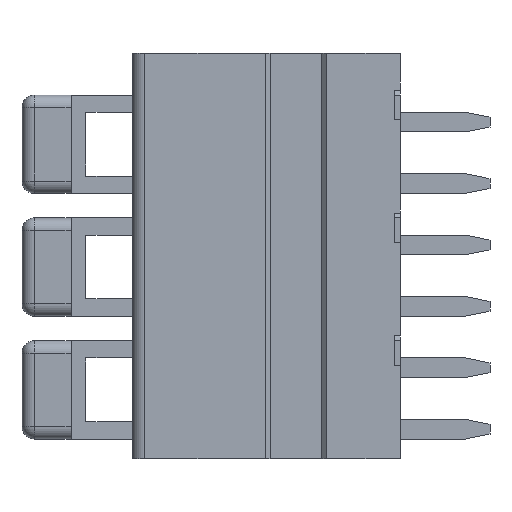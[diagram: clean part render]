
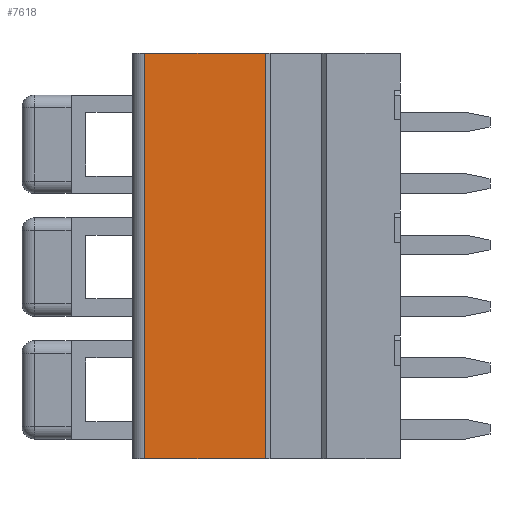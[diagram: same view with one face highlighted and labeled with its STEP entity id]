
A CAD part, left-side view. The second image highlights one B-rep face of the part: STEP entity #7618.
In plain terms, the highlighted planar face has unit normal (-1, 0, 0).
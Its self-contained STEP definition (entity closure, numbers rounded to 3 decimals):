
#736=DIRECTION('',(0.,0.,-1.));
#737=VECTOR('',#736,16.5);
#738=CARTESIAN_POINT('',(0.,10.4,0.));
#739=LINE('',#738,#737);
#744=DIRECTION('',(0.,0.,-1.));
#745=VECTOR('',#744,16.5);
#746=CARTESIAN_POINT('',(0.,5.5,0.));
#747=LINE('',#746,#745);
#748=DIRECTION('',(0.,1.,0.));
#749=VECTOR('',#748,4.9);
#750=CARTESIAN_POINT('',(0.,5.5,-16.5));
#751=LINE('',#750,#749);
#752=DIRECTION('',(0.,-1.,0.));
#753=VECTOR('',#752,4.9);
#754=CARTESIAN_POINT('',(0.,10.4,0.));
#755=LINE('',#754,#753);
#5517=CARTESIAN_POINT('',(0.,10.4,0.));
#5518=CARTESIAN_POINT('',(0.,10.4,-16.5));
#5519=VERTEX_POINT('',#5517);
#5520=VERTEX_POINT('',#5518);
#5521=CARTESIAN_POINT('',(0.,5.5,0.));
#5522=CARTESIAN_POINT('',(0.,5.5,-16.5));
#5523=VERTEX_POINT('',#5521);
#5524=VERTEX_POINT('',#5522);
#7604=CARTESIAN_POINT('',(0.,10.4,-1.5));
#7605=DIRECTION('',(-1.,0.,0.));
#7606=DIRECTION('',(0.,-1.,0.));
#7607=AXIS2_PLACEMENT_3D('',#7604,#7605,#7606);
#7608=PLANE('',#7607);
#7610=ORIENTED_EDGE('',*,*,#7609,.T.);
#7612=ORIENTED_EDGE('',*,*,#7611,.T.);
#7613=ORIENTED_EDGE('',*,*,#7594,.F.);
#7615=ORIENTED_EDGE('',*,*,#7614,.T.);
#7616=EDGE_LOOP('',(#7610,#7612,#7613,#7615));
#7617=FACE_OUTER_BOUND('',#7616,.F.);
#7618=ADVANCED_FACE('',(#7617),#7608,.T.);
#7594=EDGE_CURVE('',#5519,#5520,#739,.T.);
#7609=EDGE_CURVE('',#5523,#5524,#747,.T.);
#7611=EDGE_CURVE('',#5524,#5520,#751,.T.);
#7614=EDGE_CURVE('',#5519,#5523,#755,.T.);
